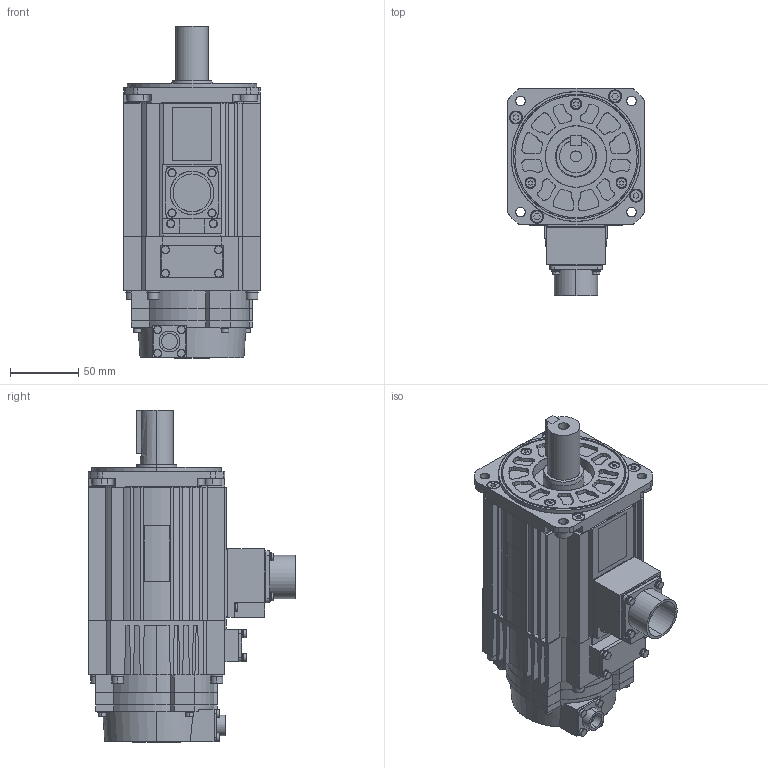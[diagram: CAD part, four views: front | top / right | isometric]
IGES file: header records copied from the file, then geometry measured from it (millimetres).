
Start section: SolidWorks IGES file using analytic representation for surfaces
Global section: file name: D:\YASKAWA\sgmsv_15a_a6c.IGS; native system: SolidWorks 2006 by SolidWorks Corporation; preprocessor: SolidWorks 2006 by SolidWorks Corporation; author: yamanouchi; date: 110320.204613; units: millimetre
Bounding box: 100 x 151.75 x 243.1 mm (x, y, z)
Surface area: 155614.3 mm2 (no closed solid volume)
Topology: 0 solids, 0 shells, 996 faces, 12135 edges, 12132 vertices
Faces by surface type: bspline 578, revolution 418
